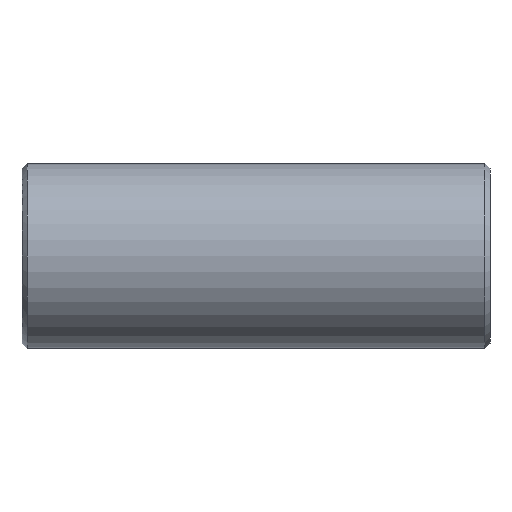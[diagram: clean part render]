
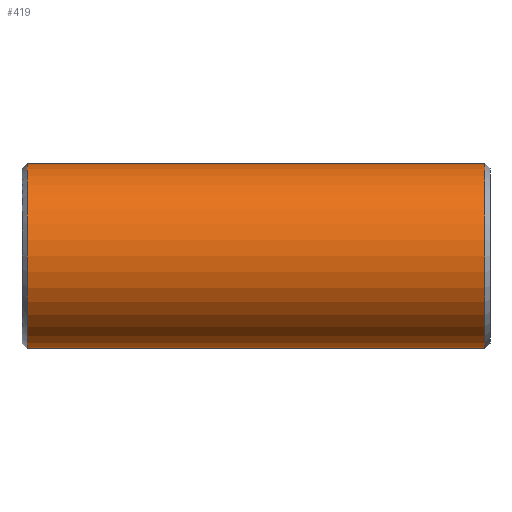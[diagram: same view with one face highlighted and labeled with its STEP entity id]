
A CAD part, front view. The second image highlights one B-rep face of the part: STEP entity #419.
In plain terms, the highlighted cylindrical face has radius 17 mm (diameter 34 mm), a partial arc.
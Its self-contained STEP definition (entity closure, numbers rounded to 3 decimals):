
#231=CARTESIAN_POINT('Vertex',(1.,0.,-17.)) ;
#238=CARTESIAN_POINT('Vertex',(1.,0.,17.)) ;
#267=CARTESIAN_POINT('Axis2P3D Location',(1.,0.,0.)) ;
#271=CARTESIAN_POINT('Vertex',(1.,-17.,0.)) ;
#274=CARTESIAN_POINT('Axis2P3D Location',(1.,0.,0.)) ;
#359=CARTESIAN_POINT('Line Origine',(86.,0.,17.)) ;
#363=CARTESIAN_POINT('Vertex',(85.,0.,17.)) ;
#377=CARTESIAN_POINT('Vertex',(85.,0.,-17.)) ;
#380=CARTESIAN_POINT('Line Origine',(86.,0.,-17.)) ;
#394=CARTESIAN_POINT('Axis2P3D Location',(86.,0.,0.)) ;
#399=CARTESIAN_POINT('Axis2P3D Location',(85.,0.,0.)) ;
#403=CARTESIAN_POINT('Vertex',(85.,-17.,0.)) ;
#406=CARTESIAN_POINT('Axis2P3D Location',(85.,0.,0.)) ;
#268=DIRECTION('Axis2P3D Direction',(1.,0.,-0.)) ;
#275=DIRECTION('Axis2P3D Direction',(1.,0.,-0.)) ;
#360=DIRECTION('Vector Direction',(-1.,0.,0.)) ;
#381=DIRECTION('Vector Direction',(-1.,0.,0.)) ;
#395=DIRECTION('Axis2P3D Direction',(-1.,-0.,-0.)) ;
#396=DIRECTION('Axis2P3D XDirection',(0.,0.,-1.)) ;
#400=DIRECTION('Axis2P3D Direction',(-1.,-0.,-0.)) ;
#407=DIRECTION('Axis2P3D Direction',(-1.,-0.,-0.)) ;
#269=AXIS2_PLACEMENT_3D('Circle Axis2P3D',#267,#268,$) ;
#276=AXIS2_PLACEMENT_3D('Circle Axis2P3D',#274,#275,$) ;
#397=AXIS2_PLACEMENT_3D('Cylinder Axis2P3D',#394,#395,#396) ;
#401=AXIS2_PLACEMENT_3D('Circle Axis2P3D',#399,#400,$) ;
#408=AXIS2_PLACEMENT_3D('Circle Axis2P3D',#406,#407,$) ;
#412=ORIENTED_EDGE('',*,*,#384,.T.) ;
#413=ORIENTED_EDGE('',*,*,#405,.F.) ;
#414=ORIENTED_EDGE('',*,*,#410,.F.) ;
#415=ORIENTED_EDGE('',*,*,#365,.T.) ;
#416=ORIENTED_EDGE('',*,*,#278,.T.) ;
#417=ORIENTED_EDGE('',*,*,#273,.T.) ;
#361=VECTOR('Line Direction',#360,1.) ;
#382=VECTOR('Line Direction',#381,1.) ;
#419=ADVANCED_FACE('352-25X86',(#418),#398,.T.) ;
#270=CIRCLE('generated circle',#269,17.) ;
#277=CIRCLE('generated circle',#276,17.) ;
#402=CIRCLE('generated circle',#401,17.) ;
#409=CIRCLE('generated circle',#408,17.) ;
#398=CYLINDRICAL_SURFACE('generated cylinder',#397,17.) ;
#273=EDGE_CURVE('',#272,#232,#270,.T.) ;
#278=EDGE_CURVE('',#239,#272,#277,.T.) ;
#365=EDGE_CURVE('',#364,#239,#362,.T.) ;
#384=EDGE_CURVE('',#232,#378,#383,.F.) ;
#405=EDGE_CURVE('',#404,#378,#402,.F.) ;
#410=EDGE_CURVE('',#364,#404,#409,.F.) ;
#411=EDGE_LOOP('',(#412,#413,#414,#415,#416,#417)) ;
#418=FACE_OUTER_BOUND('',#411,.T.) ;
#362=LINE('Line',#359,#361) ;
#383=LINE('Line',#380,#382) ;
#232=VERTEX_POINT('',#231) ;
#239=VERTEX_POINT('',#238) ;
#272=VERTEX_POINT('',#271) ;
#364=VERTEX_POINT('',#363) ;
#378=VERTEX_POINT('',#377) ;
#404=VERTEX_POINT('',#403) ;
